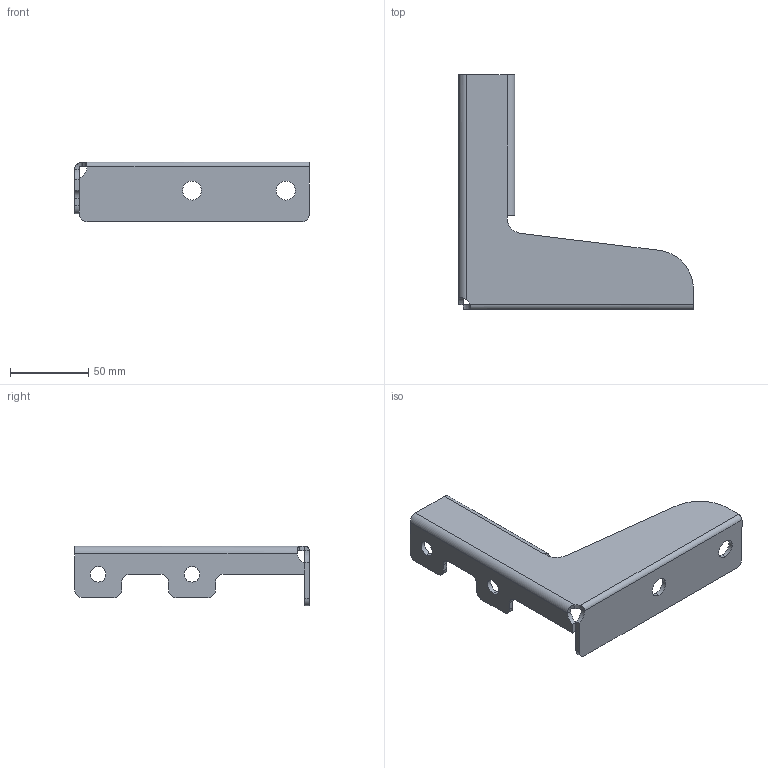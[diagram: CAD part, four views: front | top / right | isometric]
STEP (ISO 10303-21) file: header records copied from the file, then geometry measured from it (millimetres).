
FILE_DESCRIPTION (( 'STEP AP203' ), '1' );
FILE_NAME ('J3ASD.STEP', '2023-03-31T05:20:04', ( '' ), ( '' ), 'SwSTEP 2.0', 'SolidWorks 2019', '' );
FILE_SCHEMA (( 'CONFIG_CONTROL_DESIGN' ));
Length unit declared in the file: millimetre
Products named in the file (1): J3ASD
Bounding box: 150 x 150 x 38.19 mm (x, y, z)
Volume: 58153.3 mm3; surface area: 42124.3 mm2
Topology: 1 solids, 1 shells, 73 faces, 197 edges, 126 vertices
Faces by surface type: cylinder 36, plane 35, bspline 2
Entity records: 2489 total; most frequent: CARTESIAN_POINT 517, DIRECTION 401, ORIENTED_EDGE 394, EDGE_CURVE 197, AXIS2_PLACEMENT_3D 141, VERTEX_POINT 126, VECTOR 119, LINE 119
